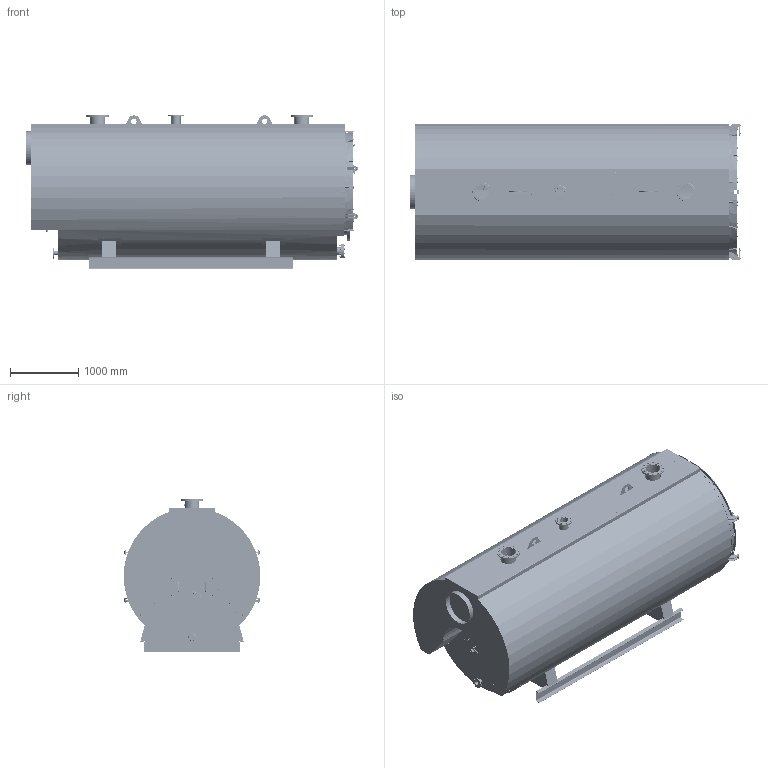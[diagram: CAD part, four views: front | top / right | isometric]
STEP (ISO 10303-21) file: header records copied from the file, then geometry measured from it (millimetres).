
FILE_DESCRIPTION(('STEP AP203'), '1');
FILE_NAME('ÊÎÒ¨Ë âîäîãðåéíûé ñòàëüíîé 3-õîäîâîé ÄËß STEP', '2024-10-29T05:46:52', (''), (''), 'ASCON STEP Converter 1.6', 'ASCON Math Kernel', '');
FILE_SCHEMA(('CONFIG_CONTROL_DESIGN'));
Length unit declared in the file: millimetre
Products named in the file (1): КЕВМ.3135.00.00.000-07 СБ
Bounding box: 4878 x 2008 x 2277 mm (x, y, z)
Volume: 428942421.9 mm3; surface area: 144153813.8 mm2
Topology: 149 solids, 153 shells, 6211 faces, 14601 edges, 9041 vertices
Faces by surface type: plane 3680, cylinder 1608, cone 602, bspline 238, torus 79, sphere 4
Full cylindrical faces by diameter (mm): 2 x2, 2.45 x10, 4 x14, 4.1 x10, 5.5 x38, 6.647 x8, 7 x30, 7.1 x38, 8 x16, 8.376 x6, 8.4 x8, 10 x29, 10.106 x18, 10.3 x8, 10.5 x7, 11 x50, 12 x62, 13 x17, 13.835 x8, 14 x26, 14.5 x1, 15 x39, 16 x28, 17 x24, 18 x32, 20 x25, 20.4 x1, 20.955 x1, 21.2 x2, 22 x24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
Entity records: 287766 total; most frequent: CARTESIAN_POINT 102473, DIRECTION 27072, ORIENTED_EDGE 26532, EDGE_CURVE 13266, AXIS2_PLACEMENT_3D 10060, VERTEX_POINT 8926, EDGE_LOOP 8334, LINE 6952
